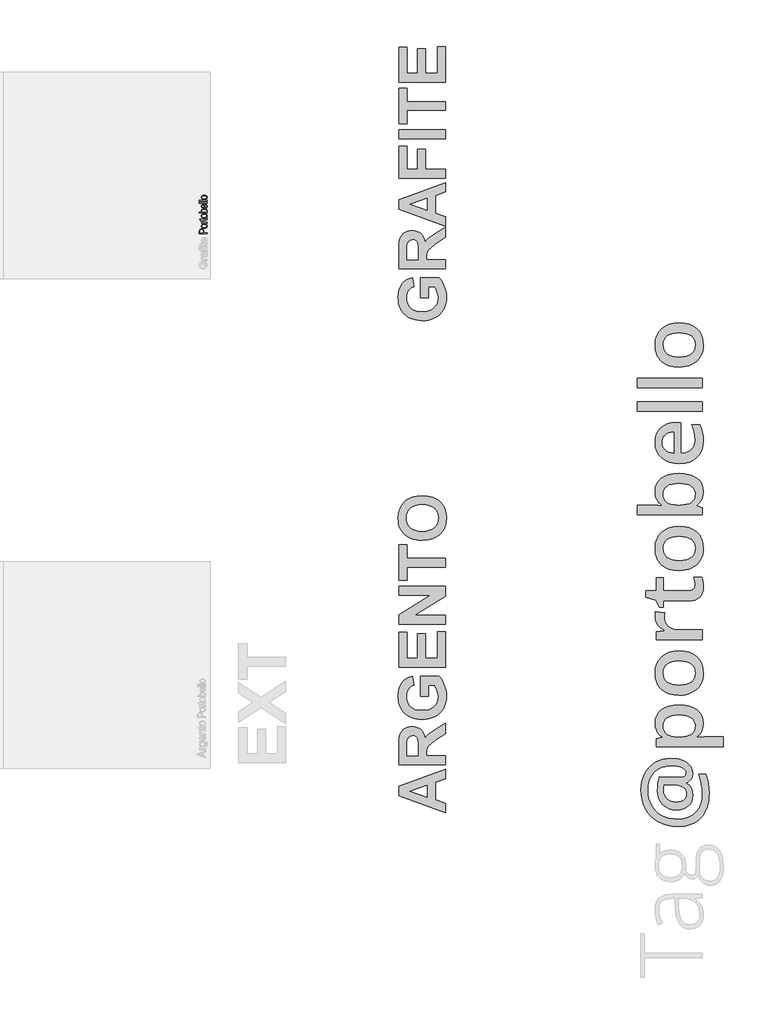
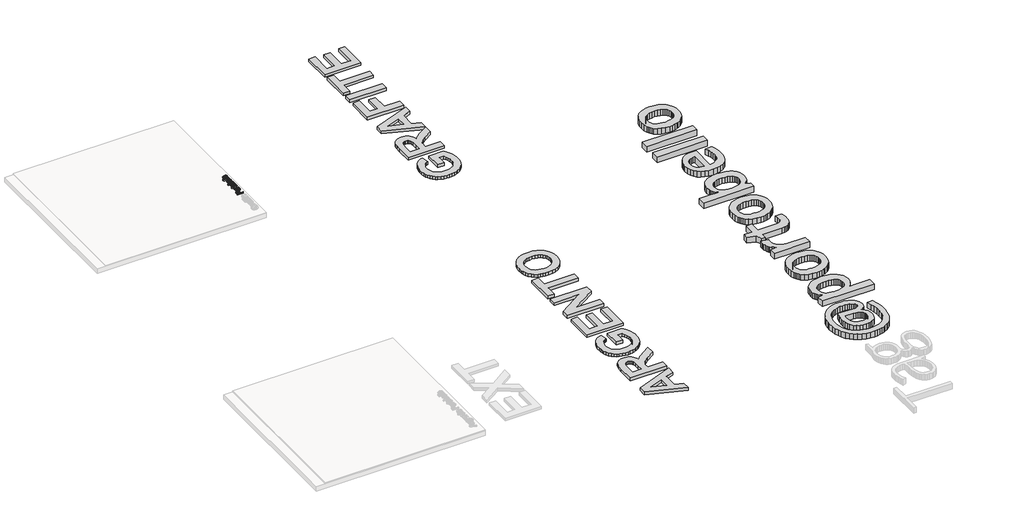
# One storey, part 6 of 14: 4 proxies.
"""IFC4 building model written with IfcOpenShell, lengths in millimetres."""

from ifc_helpers import new_model, si_unit, frame, origin, origin_with_axes, place, context, project, spatial, polyline, outline, extrude, element, save

model = new_model("IFC4")

# Units and contexts
model_context = context("Model", 3, world=origin())
ifc_project = project(units=[si_unit("LENGTHUNIT", "METRE", prefix="MILLI")], contexts=[model_context])

# Site, building, storey
site = spatial("IfcSite", under=ifc_project)
building = spatial("IfcBuilding", under=site)
storey = spatial("IfcBuildingStorey", under=building, Name="PORTOBELLO - SHOWROOM", Elevation=0.0)

# Proxies
placement = place(None, origin())
element("IfcBuildingElementProxy", 1, Name="10mm Arial Narrow", ObjectType="10mm Arial Narrow", at=placement, inside=storey, context=model_context, shape_type="SweptSolid", body=[
    extrude(outline(polyline([(197929.7268205, -2234.9213191), (197829.0082168, -2234.9213191), (197829.0082168, -2203.6244344), (197830.8865375, -2187.3287329), (197840.3669807, -2175.8557468), (197857.3860895, -2171.5660683), (197869.4619151, -2173.3523767), (197879.0883088, -2178.7113019), (197885.3895672, -2188.4550907), (197887.4899867, -2203.39599), (197887.4899867, -2225.1743574), (197929.7268205, -2225.1743574), (197929.7268205, -2234.9213191)]), holes=[polyline([(197876.1185314, -2225.1743574), (197876.1185314, -2202.2030025), (197871.5877172, -2186.3388071), (197857.9191265, -2181.31303), (197847.7533501, -2183.7878445), (197841.9534002, -2189.7654733), (197840.379672, -2202.4314469), (197840.379672, -2225.1743574), (197876.1185314, -2225.1743574)])]), frame((0.0, 0.0, 17.0), z_axis=(0.0, 0.0, 1.0), x_axis=(1.0, 0.0, 0.0)), (0.0, 0.0, 1.0), 20.0),
    extrude(outline(polyline([(197893.1757143, -2163.4436003), (197876.5849388, -2161.4891314), (197864.632854, -2155.6257248), (197857.4082994, -2146.7671581), (197855.0001145, -2135.8272089), (197857.4082994, -2125.0141733), (197864.632854, -2116.1302239), (197876.3945684, -2110.1906692), (197892.414233, -2108.2108176), (197909.5761195, -2110.1557679), (197921.7185747, -2115.990619), (197928.9431293, -2124.8396672), (197931.3513141, -2135.8272089), (197928.9367836, -2146.6878371), (197921.693192, -2155.562268), (197909.7347615, -2161.4732672), (197893.1757143, -2163.4436003)]), holes=[polyline([(197893.1503316, -2153.6966386), (197905.702083, -2152.3926018), (197914.5733411, -2148.4804912), (197919.8465996, -2142.6392944), (197921.6043525, -2135.5479991), (197919.8307354, -2128.8279259), (197914.5098843, -2123.1358526), (197905.622762, -2119.2522976), (197893.1503316, -2117.9577792), (197880.6366543, -2119.2618161), (197871.7780876, -2123.1739267), (197866.504829, -2129.0151234), (197864.7470762, -2136.1064188), (197866.5143475, -2142.8740845), (197871.8161616, -2148.5566393), (197880.6842469, -2152.4116388), (197893.1503316, -2153.6966386)])]), frame((0.0, 0.0, 17.0), z_axis=(0.0, 0.0, 1.0), x_axis=(1.0, 0.0, 0.0)), (0.0, 0.0, 1.0), 20.0),
    extrude(outline(polyline([(197921.6043525, -2036.7330988), (197931.3513141, -2035.1086052), (197931.3513141, -2042.4695918), (197929.2318576, -2050.7443562), (197923.4319078, -2055.0594173), (197908.7860826, -2056.2270221), (197866.3715698, -2056.2270221), (197866.3715698, -2064.3494901), (197863.1225826, -2064.3494901), (197867.9960634, -2065.9739837), (197866.3715698, -2073.5380321), (197868.694088, -2079.6171918), (197875.1793711, -2083.4880555), (197890.5866776, -2085.467907), (197929.7268205, -2085.467907), (197929.7268205, -2095.2148687), (197856.6246081, -2095.2148687), (197856.6246081, -2085.467907), (197866.3208044, -2085.467907), (197857.2337932, -2079.2237597), (197855.0001145, -2072.8273162), (197856.6246081, -2064.3494901), (197856.6246081, -2056.2270221), (197840.379672, -2056.2270221), (197832.257204, -2046.4800604), (197856.6246081, -2046.4800604), (197856.6246081, -2036.7330988), (197866.3715698, -2036.7330988), (197866.3715698, -2046.4800604), (197911.0197613, -2046.4800604), (197919.0153158, -2045.6170482), (197921.6043525, -2040.9973945), (197921.6043525, -2036.7330988)])), frame((0.0, 0.0, 17.0), z_axis=(0.0, 0.0, 1.0), x_axis=(1.0, 0.0, 0.0)), (0.0, 0.0, 1.0), 20.0),
    extrude(outline(polyline([(197893.1757143, -2030.2351243), (197876.5849388, -2028.2806555), (197864.632854, -2022.4172489), (197857.4082994, -2013.5586821), (197855.0001145, -2002.618733), (197857.4082994, -1991.8056974), (197864.632854, -1982.921748), (197876.3945684, -1976.9821932), (197892.414233, -1975.0023416), (197909.5761195, -1976.947292), (197921.7185747, -1982.7821431), (197928.9431293, -1991.6311913), (197931.3513141, -2002.618733), (197928.9367836, -2013.4793612), (197921.693192, -2022.3537921), (197909.7347615, -2028.2647913), (197893.1757143, -2030.2351243)]), holes=[polyline([(197893.1503316, -2020.4881627), (197905.702083, -2019.1841258), (197914.5733411, -2015.2720152), (197919.8465996, -2009.4308185), (197921.6043525, -2002.3395232), (197919.8307354, -1995.61945), (197914.5098843, -1989.9273767), (197905.622762, -1986.0438216), (197893.1503316, -1984.7493033), (197880.6366543, -1986.0533402), (197871.7780876, -1989.9654507), (197866.504829, -1995.8066475), (197864.7470762, -2002.8979428), (197866.5143475, -2009.6656086), (197871.8161616, -2015.3481634), (197880.6842469, -2019.2031629), (197893.1503316, -2020.4881627)])]), frame((0.0, 0.0, 17.0), z_axis=(0.0, 0.0, 1.0), x_axis=(1.0, 0.0, 0.0)), (0.0, 0.0, 1.0), 20.0),
    extrude(outline(polyline([(197929.7268205, -1952.2594311), (197929.7268205, -1962.0063928), (197829.0082168, -1962.0063928), (197829.0082168, -1952.2594311), (197864.4171009, -1952.2594311), (197857.3353241, -1944.8603704), (197855.0001145, -1935.659137), (197859.2009535, -1922.7774104), (197871.9303839, -1913.5000289), (197892.6172947, -1910.0225973), (197909.0716381, -1911.9548563), (197921.2743772, -1917.7516333), (197928.8320799, -1926.1247556), (197931.3513141, -1935.7860506), (197928.7368947, -1945.1268889), (197920.9697847, -1952.2594311), (197929.7268205, -1952.2594311)]), holes=[polyline([(197892.6172947, -1952.2594311), (197909.8648479, -1950.1780487), (197918.596501, -1944.2892593), (197921.6043525, -1935.836816), (197919.8148712, -1929.8940884), (197914.4464275, -1924.6557311), (197893.0234181, -1919.7695589), (197871.5877172, -1924.4780521), (197866.4572364, -1929.7227551), (197864.7470762, -1936.0398777), (197866.5365574, -1942.0175066), (197871.9050011, -1947.3098022), (197892.6172947, -1952.2594311)])]), frame((0.0, 0.0, 17.0), z_axis=(0.0, 0.0, 1.0), x_axis=(1.0, 0.0, 0.0)), (0.0, 0.0, 1.0), 20.0),
    extrude(outline(polyline([(197906.98391, -1858.0388018), (197908.6084036, -1848.2918401), (197918.4949702, -1851.9913705), (197925.6148211, -1857.8103574), (197929.9171909, -1865.5140107), (197931.3513141, -1874.8675403), (197928.9367836, -1886.4610943), (197921.693192, -1895.6052165), (197909.8870578, -1901.5447713), (197893.7848994, -1903.5246228), (197877.1179758, -1901.5352527), (197864.9374465, -1895.5671424), (197857.4844475, -1886.5531066), (197855.0001145, -1875.42596), (197857.3987809, -1864.7430108), (197864.5947799, -1855.9954934), (197876.3342845, -1850.1606424), (197892.3634675, -1848.215692), (197895.6124547, -1848.2918401), (197895.6124547, -1893.7776612), (197915.0556126, -1887.7746497), (197919.9671675, -1881.8446134), (197921.6043525, -1874.7406267), (197917.9492419, -1864.5621589), (197906.98391, -1858.0388018)]), holes=[polyline([(197885.8654931, -1893.1177107), (197885.8654931, -1858.0388018), (197871.6004086, -1862.3030975), (197866.4604093, -1868.1284301), (197864.7470762, -1875.3498118), (197870.4581865, -1887.5588966), (197885.8654931, -1893.1177107)])]), frame((0.0, 0.0, 17.0), z_axis=(0.0, 0.0, 1.0), x_axis=(1.0, 0.0, 0.0)), (0.0, 0.0, 1.0), 20.0),
    extrude(outline(polyline([(197929.7268205, -1835.2958913), (197829.0082168, -1835.2958913), (197829.0082168, -1825.5489296), (197929.7268205, -1825.5489296), (197929.7268205, -1835.2958913)])), frame((0.0, 0.0, 17.0), z_axis=(0.0, 0.0, 1.0), x_axis=(1.0, 0.0, 0.0)), (0.0, 0.0, 1.0), 20.0),
    extrude(outline(polyline([(197929.7268205, -1809.3039935), (197829.0082168, -1809.3039935), (197829.0082168, -1799.5570319), (197929.7268205, -1799.5570319), (197929.7268205, -1809.3039935)])), frame((0.0, 0.0, 17.0), z_axis=(0.0, 0.0, 1.0), x_axis=(1.0, 0.0, 0.0)), (0.0, 0.0, 1.0), 20.0),
    extrude(outline(polyline([(197893.1757143, -1788.1855766), (197876.5849388, -1786.2311077), (197864.632854, -1780.3677011), (197857.4082994, -1771.5091344), (197855.0001145, -1760.5691853), (197857.4082994, -1749.7561497), (197864.632854, -1740.8722003), (197876.3945684, -1734.9326455), (197892.414233, -1732.9527939), (197909.5761195, -1734.8977443), (197921.7185747, -1740.7325953), (197928.9431293, -1749.5816435), (197931.3513141, -1760.5691853), (197928.9367836, -1771.4298134), (197921.693192, -1780.3042443), (197909.7347615, -1786.2152435), (197893.1757143, -1788.1855766)]), holes=[polyline([(197893.1503316, -1778.438615), (197905.702083, -1777.1345781), (197914.5733411, -1773.2224675), (197919.8465996, -1767.3812708), (197921.6043525, -1760.2899754), (197919.8307354, -1753.5699023), (197914.5098843, -1747.8778289), (197905.622762, -1743.9942739), (197893.1503316, -1742.6997556), (197880.6366543, -1744.0037924), (197871.7780876, -1747.915903), (197866.504829, -1753.7570998), (197864.7470762, -1760.8483951), (197866.5143475, -1767.6160609), (197871.8161616, -1773.2986157), (197880.6842469, -1777.1536151), (197893.1503316, -1778.438615)])]), frame((0.0, 0.0, 17.0), z_axis=(0.0, 0.0, 1.0), x_axis=(1.0, 0.0, 0.0)), (0.0, 0.0, 1.0), 20.0),
])
element("IfcBuildingElementProxy", 2, Name="600mm Arial", ObjectType="600mm Arial", at=placement, inside=storey, context=model_context, shape_type="SweptSolid", body=[
    extrude(outline(polyline([(201053.0510474, -9238.3642537), (201053.0510474, -9360.8864763), (200917.0164608, -9408.86296), (200917.0164608, -9640.0913925), (201053.0510474, -9687.4605789), (201053.0510474, -9811.652869), (200440.8954075, -9588.1674766), (200440.8954075, -9463.9751865), (201053.0510474, -9238.3642537)]), holes=[polyline([(200810.1321427, -9446.2117416), (200586.6467503, -9525.0085613), (200810.1321427, -9602.7426109), (200810.1321427, -9446.2117416)])]), origin_with_axes(), (0.0, 0.0, 1.0), 50.0),
    extrude(outline(polyline([(201053.0510474, -9180.0637166), (200440.8954075, -9180.0637166), (200440.8954075, -8922.5696776), (200445.0326201, -8838.6867433), (200450.2041358, -8806.7087468), (200457.4442579, -8781.3730642), (200467.3318164, -8760.4592647), (200480.4456416, -8741.7469178), (200496.7857336, -8725.2360235), (200516.3520923, -8710.9265818), (200538.3001949, -8699.3689558), (200561.7855187, -8691.1135086), (200586.8080637, -8686.1602403), (200613.3678298, -8684.5091509), (200646.4750196, -8686.8956394), (200676.5647012, -8694.0551047), (200703.6368744, -8705.987547), (200727.6915394, -8722.6929662), (200748.1498659, -8744.1523843), (200764.4330237, -8770.3468233), (200776.5410129, -8801.276283), (200784.4738334, -8836.9407636), (200808.841636, -8803.1218974), (200835.4868034, -8775.7555645), (200874.0881356, -8747.4403297), (200934.3244327, -8710.7747575), (201053.0510474, -8635.92537), (201053.0510474, -8772.1117809), (200913.2208529, -8860.7771812), (200859.5319793, -8903.6106162), (200830.2488645, -8930.3886298), (200815.8445326, -8949.708274), (200806.7920077, -8970.1666005), (200802.0095418, -8997.3241749), (200800.4153865, -9036.7415628), (200800.4153865, -9063.4626423), (201053.0510474, -9063.4626423), (201053.0510474, -9180.0637166)]), holes=[polyline([(200693.5310684, -9063.4626423), (200693.5310684, -8967.3578506), (200691.7661107, -8891.502627), (200686.4712377, -8850.6808642), (200676.8683498, -8829.918889), (200662.1793473, -8814.2430285), (200642.802769, -8804.393426), (200619.1371538, -8801.1102252), (200592.9284814, -8805.4372182), (200572.2993525, -8818.4181972), (200557.7431963, -8839.2940405), (200549.7534417, -8867.3056267), (200547.7797256, -8962.0439996), (200547.7797256, -9063.4626423), (200693.5310684, -9063.4626423)])]), origin_with_axes(), (0.0, 0.0, 1.0), 50.0),
    extrude(outline(polyline([(200829.5656551, -8286.1221471), (200722.681337, -8286.1221471), (200722.681337, -8023.76973), (200966.8148363, -8023.76973), (200985.2947022, -8045.0441122), (201002.6263967, -8070.6075313), (201033.8452715, -8134.6014803), (201046.4988793, -8171.0013599), (201055.5371706, -8207.628976), (201060.9601454, -8244.4843286), (201062.7678036, -8281.5674177), (201060.2532134, -8327.2760256), (201052.7094427, -8369.9671253), (201040.1364916, -8409.6407168), (201022.53436, -8446.2967999), (201000.2588862, -8479.2616544), (200973.6659085, -8507.8615599), (200942.7554268, -8532.0965162), (200907.5274411, -8551.9665235), (200869.3199032, -8567.4431147), (200829.4707649, -8578.4978226), (200787.9800262, -8585.1306474), (200744.847687, -8587.341589), (200698.4985702, -8584.8412323), (200654.7968899, -8577.3401622), (200613.7426461, -8564.8383787), (200575.3358388, -8547.3358819), (200540.4115017, -8525.012963), (200509.8046687, -8498.0499135), (200483.5153395, -8466.4467333), (200461.5435144, -8430.2034225), (200448.2588868, -8399.0225037), (200438.769867, -8364.2357574), (200433.0764552, -8325.8431837), (200431.1786513, -8283.8447824), (200434.2436046, -8230.0942302), (200443.4384648, -8182.5589859), (200458.7632316, -8141.2390496), (200480.2179052, -8106.1344211), (200507.08132, -8076.9888971), (200538.6323105, -8053.5462739), (200574.8708768, -8035.8065515), (200615.7970189, -8023.76973), (200635.2305313, -8140.3708043), (200613.8754924, -8148.6926746), (200594.9021975, -8159.994097), (200578.3106465, -8174.2750717), (200564.1008395, -8191.5355986), (200552.7092713, -8211.453051), (200544.5724369, -8233.7048022), (200539.6903362, -8258.2908523), (200538.0629694, -8285.2112012), (200541.241791, -8325.549024), (200550.7782558, -8361.5408758), (200566.6723638, -8393.1867566), (200588.924115, -8420.4866663), (200617.4386193, -8442.472725), (200652.1209864, -8458.1770526), (200692.9712162, -8467.5996492), (200739.9893089, -8470.7405147), (200790.5895066, -8467.6186272), (200834.4430112, -8458.2529648), (200871.5498228, -8442.6435273), (200901.9099414, -8420.7903149), (200925.523367, -8393.869966), (200942.3900995, -8363.059119), (200952.510139, -8328.3577739), (200955.8834855, -8289.7659307), (200952.1827679, -8249.7412455), (200941.0806148, -8209.52678), (200924.7025668, -8172.0831082), (200905.1741642, -8140.3708043), (200829.5656551, -8140.3708043), (200829.5656551, -8286.1221471)])), origin_with_axes(), (0.0, 0.0, 1.0), 50.0),
    extrude(outline(polyline([(201053.0510474, -7907.1686557), (200440.8954075, -7907.1686557), (200440.8954075, -7450.4811148), (200547.7797256, -7450.4811148), (200547.7797256, -7790.5675814), (200683.8143122, -7790.5675814), (200683.8143122, -7469.9146272), (200790.6986303, -7469.9146272), (200790.6986303, -7790.5675814), (200946.1667293, -7790.5675814), (200946.1667293, -7440.7643586), (201053.0510474, -7440.7643586), (201053.0510474, -7907.1686557)])), origin_with_axes(), (0.0, 0.0, 1.0), 50.0),
    extrude(outline(polyline([(201053.0510474, -7343.5967967), (200440.8954075, -7343.5967967), (200440.8954075, -7221.3782227), (200852.9465997, -6964.6433053), (200440.8954075, -6964.6433053), (200440.8954075, -6848.042231), (201053.0510474, -6848.042231), (201053.0510474, -6974.0564128), (200647.0728279, -7226.9957224), (201053.0510474, -7226.9957224), (201053.0510474, -7343.5967967)])), origin_with_axes(), (0.0, 0.0, 1.0), 50.0),
    extrude(outline(polyline([(201053.0510474, -6595.40657), (200547.7797256, -6595.40657), (200547.7797256, -6770.3081815), (200440.8954075, -6770.3081815), (200440.8954075, -6303.9038843), (200547.7797256, -6303.9038843), (200547.7797256, -6478.8054958), (201053.0510474, -6478.8054958), (201053.0510474, -6595.40657)])), origin_with_axes(), (0.0, 0.0, 1.0), 50.0),
    extrude(outline(polyline([(200750.7688353, -6245.6033472), (200705.9616842, -6243.8858346), (200664.9121849, -6238.7332969), (200627.6203375, -6230.1457341), (200594.0861418, -6218.1231461), (200549.8483319, -6193.8881897), (200510.3550318, -6162.1758859), (200478.0354306, -6125.0358627), (200455.3187174, -6084.5177485), (200444.7574385, -6055.3485019), (200437.2136678, -6024.0157588), (200432.6874054, -5990.5195192), (200431.1786513, -5954.8597831), (200436.4118457, -5891.757802), (200452.1114288, -5835.2981346), (200478.2774006, -5785.4807811), (200514.9097613, -5742.3057414), (200536.8637945, -5723.6242339), (200560.8603392, -5707.433594), (200614.9809632, -5682.5249172), (200677.2716331, -5667.5797111), (200747.732349, -5662.5979758), (200817.7138694, -5667.5417551), (200879.6297231, -5682.3730929), (200933.47991, -5707.0919893), (200957.3803784, -5723.1592719), (200979.2644301, -5741.6984442), (201015.797156, -5784.5888133), (201041.8919603, -5834.1594523), (201057.5488428, -5890.4103612), (201062.7678036, -5953.3415399), (201057.5725653, -6016.9369501), (201041.9868505, -6073.6623099), (201016.010659, -6123.5176195), (200979.6439909, -6166.5028788), (200934.1678639, -6201.1093337), (200880.8632957, -6225.8282301), (200819.7302861, -6240.6595679), (200750.7688353, -6245.6033472)]), holes=[polyline([(200746.5177545, -6129.0022729), (200794.9402221, -6125.904108), (200837.1189148, -6116.6096132), (200873.0538324, -6101.1187885), (200902.7449751, -6079.4316339), (200925.9930734, -6052.9715024), (200942.5988579, -6023.161747), (200952.5623286, -5990.0023676), (200955.8834855, -5953.4933642), (200952.5860512, -5917.022317), (200942.6937481, -5883.9768058), (200926.2065764, -5854.3568307), (200903.1245359, -5828.1623918), (200873.4476267, -5806.7409298), (200837.1758489, -5791.4398855), (200794.3092023, -5782.2592589), (200744.847687, -5779.1990501), (200696.0741257, -5782.1786023), (200653.9049221, -5791.1172588), (200618.3400762, -5806.0150198), (200589.379588, -5826.8718851), (200566.9285673, -5852.6630407), (200550.892124, -5882.3636724), (200541.270258, -5915.9737803), (200538.0629694, -5953.4933642), (200541.3082141, -5991.0509043), (200551.0439483, -6024.7748804), (200567.2701721, -6054.6652925), (200589.9868853, -6080.7221406), (200619.241533, -6101.8446985), (200655.0815605, -6116.9322398), (200697.5069677, -6125.9847647), (200746.5177545, -6129.0022729)])]), origin_with_axes(), (0.0, 0.0, 1.0), 50.0),
])
element("IfcBuildingElementProxy", 3, Name="600mm Arial", ObjectType="600mm Arial", at=placement, inside=storey, context=model_context, shape_type="SweptSolid", body=[
    extrude(outline(polyline([(200829.5656551, -3071.5664023), (200722.681337, -3071.5664023), (200722.681337, -2809.2139852), (200966.8148363, -2809.2139852), (200985.2947022, -2830.4883674), (201002.6263967, -2856.0517865), (201033.8452715, -2920.0457355), (201046.4988793, -2956.4456151), (201055.5371706, -2993.0732312), (201060.9601454, -3029.9285838), (201062.7678036, -3067.0116728), (201060.2532134, -3112.7202808), (201052.7094427, -3155.4113805), (201040.1364916, -3195.084972), (201022.53436, -3231.7410551), (201000.2588862, -3264.7059096), (200973.6659085, -3293.305815), (200942.7554268, -3317.5407714), (200907.5274411, -3337.4107787), (200869.3199032, -3352.8873698), (200829.4707649, -3363.9420778), (200787.9800262, -3370.5749026), (200744.847687, -3372.7858442), (200698.4985702, -3370.2854875), (200654.7968899, -3362.7844174), (200613.7426461, -3350.2826339), (200575.3358388, -3332.7801371), (200540.4115017, -3310.4572182), (200509.8046687, -3283.4941687), (200483.5153395, -3251.8909885), (200461.5435144, -3215.6476777), (200448.2588868, -3184.4667589), (200438.769867, -3149.6800126), (200433.0764552, -3111.2874388), (200431.1786513, -3069.2890376), (200434.2436046, -3015.5384854), (200443.4384648, -2968.0032411), (200458.7632316, -2926.6833048), (200480.2179052, -2891.5786763), (200507.08132, -2862.4331523), (200538.6323105, -2838.990529), (200574.8708768, -2821.2508067), (200615.7970189, -2809.2139852), (200635.2305313, -2925.8150595), (200613.8754924, -2934.1369297), (200594.9021975, -2945.4383522), (200578.3106465, -2959.7193269), (200564.1008395, -2976.9798538), (200552.7092713, -2996.8973062), (200544.5724369, -3019.1490574), (200539.6903362, -3043.7351075), (200538.0629694, -3070.6554564), (200541.241791, -3110.9932792), (200550.7782558, -3146.985131), (200566.6723638, -3178.6310118), (200588.924115, -3205.9309215), (200617.4386193, -3227.9169802), (200652.1209864, -3243.6213078), (200692.9712162, -3253.0439044), (200739.9893089, -3256.1847699), (200790.5895066, -3253.0628824), (200834.4430112, -3243.69722), (200871.5498228, -3228.0877825), (200901.9099414, -3206.2345701), (200925.523367, -3179.3142212), (200942.3900995, -3148.5033742), (200952.510139, -3113.8020291), (200955.8834855, -3075.2101859), (200952.1827679, -3035.1855007), (200941.0806148, -2994.9710351), (200924.7025668, -2957.5273633), (200905.1741642, -2925.8150595), (200829.5656551, -2925.8150595), (200829.5656551, -3071.5664023)])), origin_with_axes(), (0.0, 0.0, 1.0), 50.0),
    extrude(outline(polyline([(201053.0510474, -2692.6129109), (200440.8954075, -2692.6129109), (200440.8954075, -2435.1188719), (200445.0326201, -2351.2359376), (200450.2041358, -2319.2579411), (200457.4442579, -2293.9222585), (200467.3318164, -2273.008459), (200480.4456416, -2254.2961121), (200496.7857336, -2237.7852178), (200516.3520923, -2223.4757761), (200538.3001949, -2211.9181501), (200561.7855187, -2203.6627029), (200586.8080637, -2198.7094346), (200613.3678298, -2197.0583452), (200646.4750196, -2199.4448337), (200676.5647012, -2206.604299), (200703.6368744, -2218.5367413), (200727.6915394, -2235.2421605), (200748.1498659, -2256.7015786), (200764.4330237, -2282.8960176), (200776.5410129, -2313.8254773), (200784.4738334, -2349.4899579), (200808.841636, -2315.6710917), (200835.4868034, -2288.3047588), (200874.0881356, -2259.989524), (200934.3244327, -2223.3239518), (201053.0510474, -2148.4745642), (201053.0510474, -2284.6609752), (200913.2208529, -2373.3263755), (200859.5319793, -2416.1598105), (200830.2488645, -2442.9378241), (200815.8445326, -2462.2574682), (200806.7920077, -2482.7157948), (200802.0095418, -2509.8733692), (200800.4153865, -2549.2907571), (200800.4153865, -2576.0118366), (201053.0510474, -2576.0118366), (201053.0510474, -2692.6129109)]), holes=[polyline([(200693.5310684, -2576.0118366), (200693.5310684, -2479.9070449), (200691.7661107, -2404.0518213), (200686.4712377, -2363.2300585), (200676.8683498, -2342.4680833), (200662.1793473, -2326.7922228), (200642.802769, -2316.9426203), (200619.1371538, -2313.6594195), (200592.9284814, -2317.9864125), (200572.2993525, -2330.9673914), (200557.7431963, -2351.8432348), (200549.7534417, -2379.854821), (200547.7797256, -2474.5931939), (200547.7797256, -2576.0118366), (200693.5310684, -2576.0118366)])]), origin_with_axes(), (0.0, 0.0, 1.0), 50.0),
    extrude(outline(polyline([(201053.0510474, -1565.4691928), (201053.0510474, -1687.9914154), (200917.0164608, -1735.9678991), (200917.0164608, -1967.1963316), (201053.0510474, -2014.565518), (201053.0510474, -2138.7578081), (200440.8954075, -1915.2724157), (200440.8954075, -1791.0801256), (201053.0510474, -1565.4691928)]), holes=[polyline([(200810.1321427, -1773.3166807), (200586.6467503, -1852.1135005), (200810.1321427, -1929.84755), (200810.1321427, -1773.3166807)])]), origin_with_axes(), (0.0, 0.0, 1.0), 50.0),
    extrude(outline(polyline([(201053.0510474, -1507.1686557), (200440.8954075, -1507.1686557), (200440.8954075, -1089.3481395), (200547.7797256, -1089.3481395), (200547.7797256, -1390.5675814), (200683.8143122, -1390.5675814), (200683.8143122, -1128.2151643), (200790.6986303, -1128.2151643), (200790.6986303, -1390.5675814), (201053.0510474, -1390.5675814), (201053.0510474, -1507.1686557)])), origin_with_axes(), (0.0, 0.0, 1.0), 50.0),
    extrude(outline(polyline([(201053.0510474, -992.1805776), (200440.8954075, -992.1805776), (200440.8954075, -875.5795033), (201053.0510474, -875.5795033), (201053.0510474, -992.1805776)])), origin_with_axes(), (0.0, 0.0, 1.0), 50.0),
    extrude(outline(polyline([(201053.0510474, -622.9438424), (200547.7797256, -622.9438424), (200547.7797256, -797.8454538), (200440.8954075, -797.8454538), (200440.8954075, -331.4411567), (200547.7797256, -331.4411567), (200547.7797256, -506.3427681), (201053.0510474, -506.3427681), (201053.0510474, -622.9438424)])), origin_with_axes(), (0.0, 0.0, 1.0), 50.0),
    extrude(outline(polyline([(201053.0510474, -253.7071072), (200440.8954075, -253.7071072), (200440.8954075, 202.9804337), (200547.7797256, 202.9804337), (200547.7797256, -137.1060329), (200683.8143122, -137.1060329), (200683.8143122, 183.5469214), (200790.6986303, 183.5469214), (200790.6986303, -137.1060329), (200946.1667293, -137.1060329), (200946.1667293, 212.6971899), (201053.0510474, 212.6971899), (201053.0510474, -253.7071072)])), origin_with_axes(), (0.0, 0.0, 1.0), 50.0),
])
element("IfcBuildingElementProxy", 4, Name="80mm OpenSans Bold", ObjectType="80mm OpenSans Bold", at=placement, inside=storey, context=model_context, shape_type="SweptSolid", body=[
    extrude(outline(polyline([(204007.2435913, -9097.772993), (204045.3492059, -9099.3203529), (204081.7872774, -9103.9624325), (204116.5578058, -9111.6992319), (204149.660791, -9122.530751), (204180.1422781, -9136.1715545), (204207.0483124, -9152.3362071), (204230.3788937, -9171.0247088), (204250.1340222, -9192.2370597), (204265.8554989, -9215.582664), (204277.0851252, -9240.6709259), (204283.8229009, -9267.5018456), (204286.0688262, -9296.075423), (204280.3601199, -9336.6973754), (204273.224237, -9354.8450523), (204263.2340009, -9371.5505297), (204250.8100532, -9386.2279141), (204236.3730354, -9398.291312), (204219.9229474, -9407.7407232), (204201.4597894, -9414.5761479), (204201.4597894, -9421.3064122), (204238.476243, -9451.4724182), (204264.916567, -9488.1283219), (204280.7807614, -9530.492932), (204286.0688262, -9577.7850569), (204282.5159076, -9620.4501252), (204271.857152, -9658.3078619), (204254.0925593, -9691.3582669), (204229.2221296, -9719.6013402), (204198.2824436, -9742.2108218), (204162.3100824, -9758.3604515), (204121.3050458, -9768.0502294), (204075.2673339, -9771.2801553), (204022.123785, -9766.9986256), (203974.2232321, -9754.1540364), (203931.5656753, -9732.7463877), (203894.1511145, -9702.7756795), (203863.7071846, -9665.5939739), (203841.9615204, -9622.5533328), (203828.9141219, -9573.6537563), (203824.5649891, -9518.8952444), (203826.3977842, -9474.5776559), (203831.8961698, -9425.7531939), (203840.6395042, -9377.5296485), (203852.207146, -9335.0148093), (204103.390224, -9347.273505), (204116.1296528, -9347.273505), (204153.9873895, -9343.6680062), (204181.0286299, -9332.8515101), (204190.4930641, -9324.7391379), (204197.2533742, -9314.8240164), (204202.6616223, -9289.5855253), (204199.1988412, -9268.8313733), (204188.810498, -9250.315635), (204171.4965927, -9234.0383106), (204147.2571252, -9219.9993999), (204117.6544783, -9208.6946591), (204084.2510349, -9200.6198442), (204047.0467949, -9195.7749553), (204006.0417583, -9194.1599923), (203960.9504899, -9196.5786811), (203918.6985517, -9203.8347473), (203879.2859437, -9215.9281909), (203842.712666, -9232.859012), (203809.5721235, -9254.2516378), (203780.4577213, -9279.7304955), (203755.3694593, -9309.295585), (203734.3073376, -9342.9469065), (203717.6394174, -9379.9483372), (203705.7337602, -9419.5637545), (203698.5903658, -9461.7931583), (203696.2092344, -9506.6365487), (203699.1987937, -9563.6109401), (203708.1674718, -9616.754489), (203723.1152686, -9666.0671956), (203744.0421841, -9711.5490597), (203770.5200654, -9752.5390734), (203802.1207595, -9788.3762285), (203838.8442663, -9819.0605249), (203880.6905859, -9844.5919628), (203926.8785269, -9864.6775953), (203976.6268979, -9879.0244756), (204029.9356989, -9887.6326038), (204086.8049298, -9890.5019799), (204160.9805547, -9885.146312), (204226.0673182, -9869.0793083), (204255.2023769, -9857.0290555), (204282.0652203, -9842.3009688), (204306.6558483, -9824.8950481), (204328.974261, -9804.8112935), (204348.832672, -9782.2262241), (204366.0432948, -9757.3163592), (204380.6061295, -9730.0816988), (204392.5211761, -9700.5222428), (204408.4079049, -9634.4289442), (204413.7034811, -9559.0364636), (204410.6087614, -9497.3223437), (204401.3246022, -9434.2862076), (204385.8510035, -9369.9280553), (204364.1879653, -9304.2478868), (204454.3254335, -9304.2478868), (204474.9368678, -9363.4682034), (204489.659321, -9425.2724608), (204498.4927929, -9489.6606589), (204501.4372835, -9556.6327977), (204499.7415724, -9606.2478404), (204494.654439, -9653.0573543), (204486.1758834, -9697.0613396), (204474.3059056, -9738.2597961), (204459.0445055, -9776.652724), (204440.3916832, -9812.2401232), (204418.3474386, -9845.0219936), (204392.9117718, -9874.9983354), (204364.4414769, -9901.7860642), (204333.293348, -9925.0020959), (204299.4673852, -9944.6464303), (204262.9635885, -9960.7190676), (204223.7819578, -9973.2200077), (204181.9224931, -9982.1492507), (204137.3851945, -9987.5067965), (204090.170062, -9989.292645), (204021.102227, -9985.4317568), (203955.9553719, -9973.8490922), (203894.7294966, -9954.5446511), (203837.4246012, -9927.5184335), (203785.3251446, -9893.6417684), (203739.7155857, -9853.7859845), (203700.5959245, -9807.951082), (203667.966161, -9756.1370607), (203642.2544482, -9699.5157077), (203623.8889391, -9639.2588103), (203612.8696336, -9575.3663682), (203609.1965317, -9507.8383816), (203612.2612057, -9449.6170886), (203621.4552274, -9394.6557674), (203636.778597, -9342.954418), (203658.2313144, -9294.5130403), (203685.3476694, -9250.3306579), (203717.6619518, -9211.4062946), (203755.1741615, -9177.7399502), (203797.8842985, -9149.3316248), (203844.9510798, -9126.7747234), (203895.5332223, -9110.662651), (203949.6307262, -9100.9954075), (204007.2435913, -9097.772993)]), holes=[polyline([(204077.1902666, -9665.9995925), (204106.5976156, -9664.4109196), (204132.0839847, -9659.644901), (204153.649374, -9651.7015366), (204171.2937833, -9640.5808265), (204185.0172129, -9626.2827706), (204194.8196625, -9608.8073689), (204200.7011323, -9588.1546215), (204202.6616223, -9564.3245284), (204200.1978648, -9539.0409685), (204192.8065924, -9516.7920368), (204180.4878051, -9497.5777332), (204163.2415029, -9481.3980576), (204141.0676857, -9468.2530102), (204113.9663536, -9458.1425908), (204081.9375066, -9451.0667996), (204044.9811446, -9447.0256364), (203916.3850233, -9440.2953721), (203909.5345757, -9476.590726), (203907.2510932, -9515.2897457), (203910.1129578, -9548.9035098), (203918.6985517, -9578.5962942), (203933.0078747, -9604.3680986), (203953.040927, -9626.2189232), (203977.9714485, -9643.622966), (204006.9731788, -9656.0544252), (204040.0461182, -9663.5133006), (204077.1902666, -9665.9995925)])]), origin_with_axes(), (0.0, 0.0, 1.0), 100.0),
    extrude(outline(polyline([(204424.5199773, -8639.1535549), (204419.32205, -8692.7102339), (204403.728268, -8739.9272443), (204377.7386313, -8780.8045862), (204341.35314, -8815.3422594), (204341.35314, -8823.03399), (204435.3364735, -8815.3422594), (204686.0388183, -8815.3422594), (204686.0388183, -8944.1787472), (203809.1815278, -8944.1787472), (203809.1815278, -8839.8596507), (203886.3392006, -8821.8321571), (203886.3392006, -8815.3422594), (203864.6498723, -8799.5118665), (203845.8524545, -8781.8261441), (203829.9469471, -8762.2850922), (203816.9333501, -8740.8887107), (203806.8116636, -8717.6369996), (203799.5818875, -8692.529959), (203793.7980666, -8636.7498891), (203798.9584366, -8583.9443556), (203814.4395468, -8537.2982159), (203840.2413971, -8496.8114697), (203876.3639874, -8462.4841173), (203921.8007829, -8435.1424186), (203975.5452483, -8415.6126338), (204037.5973837, -8403.8947629), (204107.957189, -8399.988806), (204178.4897579, -8403.962366), (204240.8198171, -8415.8830462), (204294.9473668, -8435.7508465), (204340.8724068, -8463.5657669), (204377.4682189, -8498.381364), (204403.6080847, -8539.2511943), (204419.2920042, -8586.175258), (204424.5199773, -8639.1535549)]), holes=[polyline([(203901.4822952, -8670.6415771), (203904.2765568, -8705.7275866), (203912.6593413, -8735.750875), (203926.6306489, -8760.7114422), (203946.1904795, -8780.6092883), (203971.8796579, -8795.8049632), (204004.239009, -8806.6590166), (204043.2685327, -8813.1714487), (204088.9682291, -8815.3422594), (204107.957189, -8815.3422594), (204159.3055001, -8813.1939831), (204203.0221722, -8806.7491541), (204239.1072052, -8796.0077725), (204267.5605994, -8780.9698382), (204289.1184772, -8761.0494577), (204304.5169613, -8735.6607375), (204313.7560518, -8704.8036776), (204316.8357486, -8668.4782779), (204313.4255478, -8637.5536148), (204303.1949451, -8610.3997025), (204286.1439407, -8587.016541), (204262.2725346, -8567.4041302), (204232.1065286, -8551.8929742), (204196.1717246, -8540.8135771), (204154.4681226, -8534.1659388), (204106.9957227, -8531.9500594), (204059.3655822, -8534.1509159), (204017.9098583, -8540.7534855), (203982.628551, -8551.757768), (203953.5216602, -8567.1637636), (203930.754438, -8586.8362661), (203914.4921365, -8610.6400691), (203904.7347556, -8638.5751728), (203901.4822952, -8670.6415771)])]), origin_with_axes(), (0.0, 0.0, 1.0), 100.0),
    extrude(outline(polyline([(204107.957189, -7691.8688559), (204178.4897579, -7696.6761875), (204240.8198171, -7711.0981825), (204294.9473668, -7735.1348406), (204340.8724068, -7768.7861621), (204360.4773062, -7788.9581763), (204377.4682189, -7811.0155659), (204391.8451451, -7834.9583309), (204403.6080847, -7860.7864713), (204419.2920042, -7918.0988781), (204424.5199773, -7982.9527865), (204422.1088, -8024.6038083), (204414.8752682, -8063.7460038), (204402.8193818, -8100.3793732), (204385.9411409, -8134.5039163), (204364.5635381, -8165.4811596), (204339.0095658, -8192.6726292), (204309.2792242, -8216.0783251), (204275.3725133, -8235.6982473), (204237.9128838, -8251.2094033), (204197.5237866, -8262.2888004), (204154.2052217, -8268.9364387), (204107.957189, -8271.1523181), (204037.9879794, -8266.3825438), (203976.1461647, -8252.0732207), (203922.4317451, -8228.2243489), (203876.8447206, -8194.8359284), (203857.3806611, -8174.7784639), (203840.5118095, -8152.7642651), (203826.2381658, -8128.7933322), (203814.5597301, -8102.865665), (203798.9884825, -8045.1401281), (203793.7980666, -7979.5876544), (203799.1161772, -7916.6942359), (203815.0705091, -7860.6963338), (203841.6610622, -7811.593948), (203878.8878366, -7769.3870785), (203925.1133348, -7735.4728561), (203978.7000597, -7711.2484116), (204039.6480111, -7696.7137448), (204107.957189, -7691.8688559)]), holes=[polyline([(204107.957189, -8138.4699649), (204156.9131014, -8136.0062075), (204199.3415589, -8128.6149351), (204235.2425613, -8116.2961478), (204264.6161087, -8099.0498455), (204287.4622012, -8076.8760284), (204303.7808387, -8049.7746963), (204313.5720212, -8017.7458492), (204316.8357486, -7980.7894873), (204313.5720212, -7944.1711408), (204303.7808387, -7912.4352406), (204287.4622012, -7885.5817865), (204264.6161087, -7863.6107786), (204235.2425613, -7846.5222169), (204199.3415589, -7834.3161015), (204156.9131014, -7826.9924322), (204107.957189, -7824.5512091), (204059.5646358, -7827.0074551), (204017.624423, -7834.3761931), (203982.1365506, -7846.6574232), (203953.1010187, -7863.8511452), (203930.5178272, -7885.9573593), (203914.3869761, -7912.9760654), (203904.7084655, -7944.9072635), (203901.4822952, -7981.7509536), (203904.8173816, -8020.1420036), (203914.8226405, -8052.869416), (203931.4980722, -8079.9331908), (203954.8436764, -8101.3333281), (203984.4237889, -8117.5806067), (204019.8027452, -8129.1858057), (204060.9805452, -8136.1489251), (204107.957189, -8138.4699649)])]), origin_with_axes(), (0.0, 0.0, 1.0), 100.0),
    extrude(outline(polyline([(203793.7980666, -7241.181515), (203795.1801744, -7206.5086355), (203799.326498, -7178.4458371), (203919.5097889, -7190.7045328), (203914.4620907, -7218.1063231), (203912.7795246, -7246.4695798), (203915.9193131, -7282.5245671), (203925.3386785, -7314.9740556), (203941.0376209, -7343.8180454), (203963.0161402, -7369.0565365), (203990.0123119, -7389.5628105), (204020.7642115, -7404.2101491), (204055.2718389, -7412.9985523), (204093.5351941, -7415.92802), (204409.1365161, -7415.92802), (204409.1365161, -7544.7645078), (203809.1815278, -7544.7645078), (203809.1815278, -7443.8105435), (203911.3373251, -7426.7445161), (203911.3373251, -7420.2546184), (203885.6932154, -7404.4580271), (203862.8433672, -7386.3929762), (203842.7877805, -7366.0594657), (203825.5264554, -7343.4574955), (203811.6452853, -7319.2630968), (203801.7301638, -7294.1523004), (203795.7810909, -7268.1251065), (203793.7980666, -7241.181515)])), origin_with_axes(), (0.0, 0.0, 1.0), 100.0),
    extrude(outline(polyline([(204316.8357486, -6822.2225628), (204313.1701583, -6774.3295214), (204302.1733872, -6726.3162967), (204401.9255186, -6726.3162967), (204410.7589905, -6751.0740546), (204418.0300796, -6782.0813437), (204422.8975029, -6816.8143148), (204424.5199773, -6852.7491187), (204421.4853492, -6896.1277753), (204412.3814649, -6933.722611), (204397.2083244, -6965.5336258), (204375.9659278, -6991.5608197), (204348.6542749, -7011.8041928), (204315.2733659, -7026.263745), (204275.8232006, -7034.9394763), (204230.3037792, -7037.8313867), (203901.4822952, -7037.8313867), (203901.4822952, -7121.4789572), (203847.3998143, -7121.4789572), (203802.6916301, -7031.8222222), (203670.7303767, -6987.8351377), (203670.7303767, -6908.2737991), (203809.1815278, -6908.2737991), (203809.1815278, -6732.5658278), (203901.4822952, -6732.5658278), (203901.4822952, -6908.2737991), (204225.9771807, -6908.2737991), (204247.6627533, -6906.7940424), (204266.3287206, -6902.3547721), (204281.9750828, -6894.9559882), (204294.6018398, -6884.5976908), (204304.3291749, -6871.8207047), (204311.2772714, -6857.1658547), (204316.8357486, -6822.2225628)])), origin_with_axes(), (0.0, 0.0, 1.0), 100.0),
    extrude(outline(polyline([(204107.957189, -6061.2219648), (204178.4897579, -6066.0292964), (204240.8198171, -6080.4512913), (204294.9473668, -6104.4879495), (204340.8724068, -6138.139271), (204360.4773062, -6158.3112852), (204377.4682189, -6180.3686748), (204391.8451451, -6204.3114398), (204403.6080847, -6230.1395802), (204419.2920042, -6287.451987), (204424.5199773, -6352.3058954), (204422.1088, -6393.9569171), (204414.8752682, -6433.0991127), (204402.8193818, -6469.732482), (204385.9411409, -6503.8570252), (204364.5635381, -6534.8342684), (204339.0095658, -6562.025738), (204309.2792242, -6585.4314339), (204275.3725133, -6605.0513562), (204237.9128838, -6620.5625121), (204197.5237866, -6631.6419093), (204154.2052217, -6638.2895476), (204107.957189, -6640.505427), (204037.9879794, -6635.7356526), (203976.1461647, -6621.4263295), (203922.4317451, -6597.5774578), (203876.8447206, -6564.1890373), (203857.3806611, -6544.1315727), (203840.5118095, -6522.117374), (203826.2381658, -6498.146441), (203814.5597301, -6472.2187739), (203798.9884825, -6414.493237), (203793.7980666, -6348.9407632), (203799.1161772, -6286.0473448), (203815.0705091, -6230.0494427), (203841.6610622, -6180.9470569), (203878.8878366, -6138.7401874), (203925.1133348, -6104.825965), (203978.7000597, -6080.6015204), (204039.6480111, -6066.0668537), (204107.957189, -6061.2219648)]), holes=[polyline([(204107.957189, -6507.8230738), (204156.9131014, -6505.3593163), (204199.3415589, -6497.968044), (204235.2425613, -6485.6492566), (204264.6161087, -6468.4029544), (204287.4622012, -6446.2291372), (204303.7808387, -6419.1278051), (204313.5720212, -6387.0989581), (204316.8357486, -6350.1425961), (204313.5720212, -6313.5242497), (204303.7808387, -6281.7883494), (204287.4622012, -6254.9348954), (204264.6161087, -6232.9638875), (204235.2425613, -6215.8753258), (204199.3415589, -6203.6692103), (204156.9131014, -6196.345541), (204107.957189, -6193.9043179), (204059.5646358, -6196.3605639), (204017.624423, -6203.729302), (203982.1365506, -6216.010532), (203953.1010187, -6233.2042541), (203930.5178272, -6255.3104681), (203914.3869761, -6282.3291742), (203904.7084655, -6314.2603723), (203901.4822952, -6351.1040625), (203904.8173816, -6389.4951125), (203914.8226405, -6422.2225249), (203931.4980722, -6449.2862997), (203954.8436764, -6470.6864369), (203984.4237889, -6486.9337156), (204019.8027452, -6498.5389146), (204060.9805452, -6505.502034), (204107.957189, -6507.8230738)])]), origin_with_axes(), (0.0, 0.0, 1.0), 100.0),
    extrude(outline(polyline([(203793.7980666, -5606.2080254), (203798.9584366, -5553.4024919), (203814.4395468, -5506.7563521), (203840.2413971, -5466.269606), (203876.3639874, -5431.9422535), (203921.8007829, -5404.6005549), (203975.5452483, -5385.0707701), (204037.5973837, -5373.3528992), (204107.957189, -5369.4469423), (204178.6850557, -5373.397968), (204241.1202754, -5385.251045), (204295.2628479, -5405.0061735), (204341.1127734, -5432.6633533), (204377.6034251, -5467.3512556), (204403.6681763, -5508.1985516), (204419.3070271, -5555.2052413), (204424.5199773, -5608.3713246), (204419.32205, -5662.033164), (204403.728268, -5709.325289), (204377.7386313, -5750.2476995), (204341.35314, -5784.8003957), (204341.35314, -5793.4535926), (204409.1365161, -5817.0095176), (204409.1365161, -5913.6368835), (203563.046148, -5913.6368835), (203563.046148, -5784.8003957), (203763.0311441, -5784.8003957), (203829.0117708, -5786.9636949), (203884.6566345, -5790.0884605), (203884.6566345, -5784.8003957), (203863.3616577, -5768.7596821), (203844.906011, -5750.9237305), (203829.2896947, -5731.2925411), (203816.5127086, -5709.8661138), (203806.5750527, -5686.6444485), (203799.4767271, -5661.6275454), (203793.7980666, -5606.2080254)]), holes=[polyline([(203901.4822952, -5640.0997134), (203904.3291369, -5675.6439217), (203912.8696621, -5705.8399735), (203927.1038706, -5730.6878689), (203947.0317625, -5750.1876079), (203973.6298271, -5764.9701527), (204007.8745535, -5775.6664656), (204049.7659419, -5782.2765466), (204099.3039921, -5784.8003957), (204107.957189, -5784.8003957), (204159.3055001, -5782.6521193), (204203.0221722, -5776.2072904), (204239.1072052, -5765.4659087), (204267.5605994, -5750.4279745), (204289.1184772, -5730.507594), (204304.5169613, -5705.1188738), (204313.7560518, -5674.2618138), (204316.8357486, -5637.9364142), (204313.463105, -5606.4258576), (204303.3451742, -5578.9564642), (204286.4819562, -5555.5282339), (204262.873451, -5536.1411668), (204232.8952314, -5520.9454919), (204196.9228701, -5510.0914385), (204154.9563672, -5503.5790064), (204106.9957227, -5501.4081957), (204058.8285131, -5503.5752507), (204017.0835982, -5510.0764155), (203981.7609778, -5520.9116904), (203952.8606521, -5536.0810751), (203930.382621, -5555.5845698), (203914.3268845, -5579.4221744), (203904.6934425, -5607.5938889), (203901.4822952, -5640.0997134)])]), origin_with_axes(), (0.0, 0.0, 1.0), 100.0),
    extrude(outline(polyline([(204424.5199773, -4940.6329603), (204419.3445843, -5007.4473586), (204403.8184054, -5066.5550033), (204392.1737713, -5093.2187931), (204377.9414406, -5117.9558946), (204361.1214135, -5140.7663076), (204341.7136899, -5161.6500323), (204296.3970777, -5196.5106981), (204243.2535288, -5221.4111737), (204182.283043, -5236.351459), (204113.4856204, -5241.3315541), (204042.9530516, -5236.7120089), (203980.3826257, -5222.8533732), (203925.7743429, -5199.7556469), (203879.1282031, -5167.4188302), (203841.7962684, -5126.9996872), (203815.1306007, -5079.654982), (203799.1312001, -5025.3847147), (203793.7980666, -4964.1888853), (203798.2899171, -4907.4698834), (203811.7654686, -4857.0154356), (203834.2247211, -4812.8255418), (203865.6676746, -4774.9002021), (203904.9826336, -4744.4562722), (203951.0579027, -4722.710608), (204003.893482, -4709.6632095), (204063.4893714, -4705.3140767), (204132.2342138, -4705.3140767), (204132.2342138, -5108.649201), (204174.1331136, -5104.6831524), (204210.8941777, -5095.429039), (204242.5174061, -5080.8868608), (204269.0027989, -5061.0566178), (204289.9297144, -5036.2988598), (204304.8775112, -5006.9741369), (204313.8461893, -4973.0824488), (204316.8357486, -4934.6237957), (204314.3118995, -4882.8548432), (204306.7403522, -4834.751481), (204293.2798236, -4786.7683021), (204273.0890308, -4735.3598994), (204381.013626, -4735.3598994), (204401.3246022, -4782.7421618), (204414.6649475, -4830.6652491), (204422.0562198, -4882.2539267), (204424.5199773, -4940.6329603)]), holes=[polyline([(203886.098834, -4964.4292519), (203888.55508, -4993.4460052), (203895.923818, -5019.4431533), (203908.2050481, -5042.4206962), (203925.3987701, -5062.378634), (203947.2946635, -5078.9714396), (203973.6824073, -5091.8535861), (204004.5620016, -5101.0250735), (204039.9334464, -5106.4859017), (204039.9334464, -4831.9872653), (204004.3667037, -4834.6989008), (203973.381949, -4841.6319744), (203946.9791823, -4852.7864861), (203925.1584036, -4868.1624359), (203908.0698419, -4887.2941135), (203895.8637264, -4909.7158087), (203888.5400571, -4935.4275215), (203886.098834, -4964.4292519)])]), origin_with_axes(), (0.0, 0.0, 1.0), 100.0),
    extrude(outline(polyline([(204409.1365161, -4431.53654), (204409.1365161, -4560.3730278), (203563.046148, -4560.3730278), (203563.046148, -4431.53654), (204409.1365161, -4431.53654)])), origin_with_axes(), (0.0, 0.0, 1.0), 100.0),
    extrude(outline(polyline([(204409.1365161, -4123.8673152), (204409.1365161, -4252.7038031), (203563.046148, -4252.7038031), (203563.046148, -4123.8673152), (204409.1365161, -4123.8673152)])), origin_with_axes(), (0.0, 0.0, 1.0), 100.0),
    extrude(outline(polyline([(204107.957189, -3399.8831707), (204178.4897579, -3404.6905024), (204240.8198171, -3419.1124973), (204294.9473668, -3443.1491555), (204340.8724068, -3476.8004769), (204360.4773062, -3496.9724912), (204377.4682189, -3519.0298808), (204391.8451451, -3542.9726458), (204403.6080847, -3568.8007861), (204419.2920042, -3626.113193), (204424.5199773, -3690.9671013), (204422.1088, -3732.6181231), (204414.8752682, -3771.7603187), (204402.8193818, -3808.393688), (204385.9411409, -3842.5182312), (204364.5635381, -3873.4954744), (204339.0095658, -3900.686944), (204309.2792242, -3924.0926399), (204275.3725133, -3943.7125621), (204237.9128838, -3959.2237181), (204197.5237866, -3970.3031153), (204154.2052217, -3976.9507535), (204107.957189, -3979.166633), (204037.9879794, -3974.3968586), (203976.1461647, -3960.0875355), (203922.4317451, -3936.2386637), (203876.8447206, -3902.8502432), (203857.3806611, -3882.7927787), (203840.5118095, -3860.7785799), (203826.2381658, -3836.807647), (203814.5597301, -3810.8799799), (203798.9884825, -3753.1544429), (203793.7980666, -3687.6019692), (203799.1161772, -3624.7085508), (203815.0705091, -3568.7106487), (203841.6610622, -3519.6082629), (203878.8878366, -3477.4013934), (203925.1133348, -3443.487171), (203978.7000597, -3419.2627264), (204039.6480111, -3404.7280597), (204107.957189, -3399.8831707)]), holes=[polyline([(204107.957189, -3846.4842798), (204156.9131014, -3844.0205223), (204199.3415589, -3836.6292499), (204235.2425613, -3824.3104626), (204264.6161087, -3807.0641604), (204287.4622012, -3784.8903432), (204303.7808387, -3757.7890111), (204313.5720212, -3725.7601641), (204316.8357486, -3688.8038021), (204313.5720212, -3652.1854557), (204303.7808387, -3620.4495554), (204287.4622012, -3593.5961013), (204264.6161087, -3571.6250935), (204235.2425613, -3554.5365318), (204199.3415589, -3542.3304163), (204156.9131014, -3535.006747), (204107.957189, -3532.5655239), (204059.5646358, -3535.0217699), (204017.624423, -3542.3905079), (203982.1365506, -3554.671738), (203953.1010187, -3571.86546), (203930.5178272, -3593.9716741), (203914.3869761, -3620.9903802), (203904.7084655, -3652.9215783), (203901.4822952, -3689.7652684), (203904.8173816, -3728.1563184), (203914.8226405, -3760.8837308), (203931.4980722, -3787.9475057), (203954.8436764, -3809.3476429), (203984.4237889, -3825.5949215), (204019.8027452, -3837.2001206), (204060.9805452, -3844.16324), (204107.957189, -3846.4842798)])]), origin_with_axes(), (0.0, 0.0, 1.0), 100.0),
])

save(model, "model.ifc")
